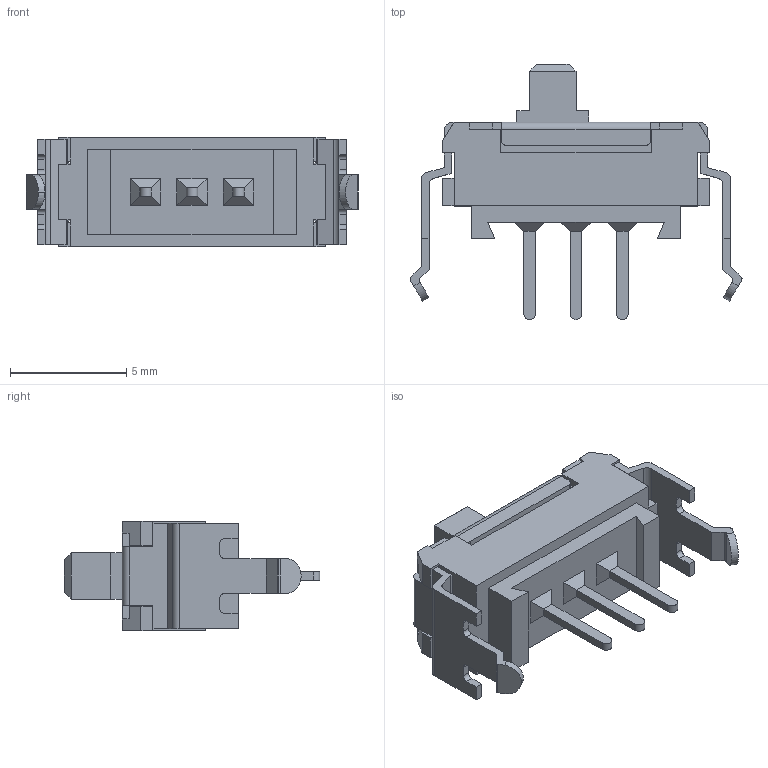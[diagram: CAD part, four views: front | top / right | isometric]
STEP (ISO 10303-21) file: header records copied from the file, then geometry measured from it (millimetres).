
FILE_DESCRIPTION (( 'STEP AP214' ), '1' );
FILE_NAME ('SSSS910400.STEP', '2011-04-05T07:47:13', ( '' ), ( '' ), 'SwSTEP 2.0', 'SolidWorks 2007', '' );
FILE_SCHEMA (( 'AUTOMOTIVE_DESIGN' ));
Length unit declared in the file: millimetre
Products named in the file (1): SSSS910400
Bounding box: 14.3 x 11 x 4.7 mm (x, y, z)
Volume: 236.2 mm3; surface area: 425.4 mm2
Topology: 1 solids, 1 shells, 216 faces, 593 edges, 384 vertices
Faces by surface type: plane 184, cylinder 32
Entity records: 9040 total; most frequent: CARTESIAN_POINT 1194, ORIENTED_EDGE 1186, DIRECTION 1091, EDGE_CURVE 593, LINE 529, VECTOR 529, VERTEX_POINT 384, AXIS2_PLACEMENT_3D 281
